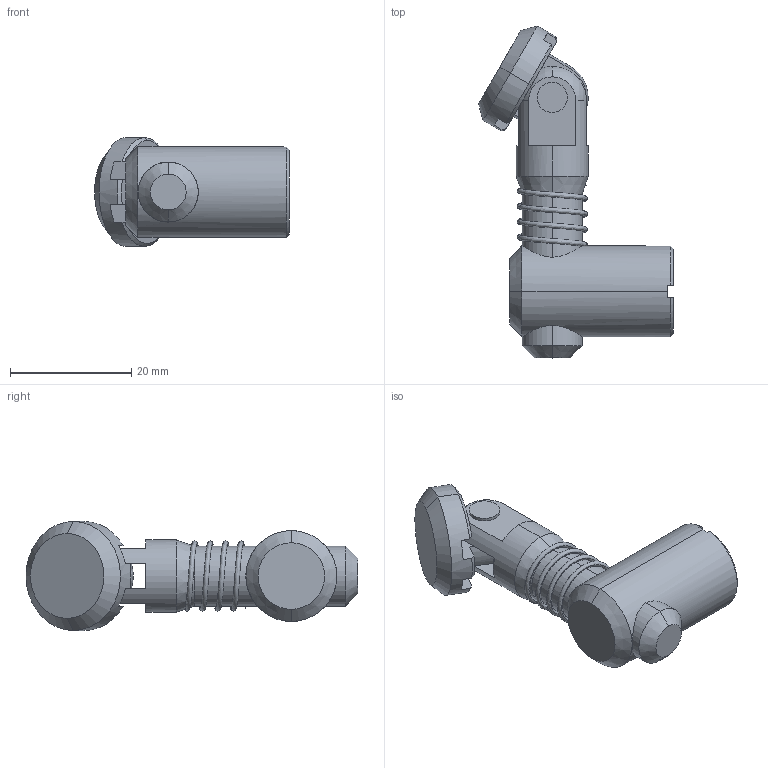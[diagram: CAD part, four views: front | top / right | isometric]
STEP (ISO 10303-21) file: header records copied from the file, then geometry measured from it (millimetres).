
FILE_DESCRIPTION (( 'STEP AP214' ), '1' );
FILE_NAME ('2.04.spoc.STEP', '2015-05-30T09:35:26', ( '' ), ( '' ), 'SwSTEP 2.0', 'SolidWorks 2015', '' );
FILE_SCHEMA (( 'AUTOMOTIVE_DESIGN' ));
Length unit declared in the file: millimetre
Products named in the file (1): 2.04.spoc
Bounding box: 32.16 x 54.79 x 18 mm (x, y, z)
Surface area: 5671.8 mm2 (no closed solid volume)
Topology: 0 solids, 6 shells, 87 faces, 234 edges, 154 vertices
Faces by surface type: plane 45, cone 19, cylinder 16, sphere 5, bspline 2
Entity records: 4682 total; most frequent: CARTESIAN_POINT 2473, DIRECTION 460, ORIENTED_EDGE 438, EDGE_CURVE 229, AXIS2_PLACEMENT_3D 177, VERTEX_POINT 152, LINE 106, VECTOR 106
